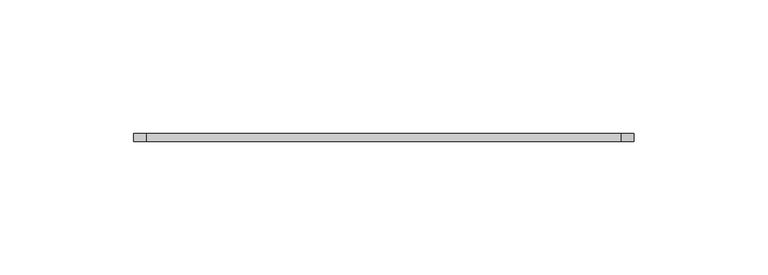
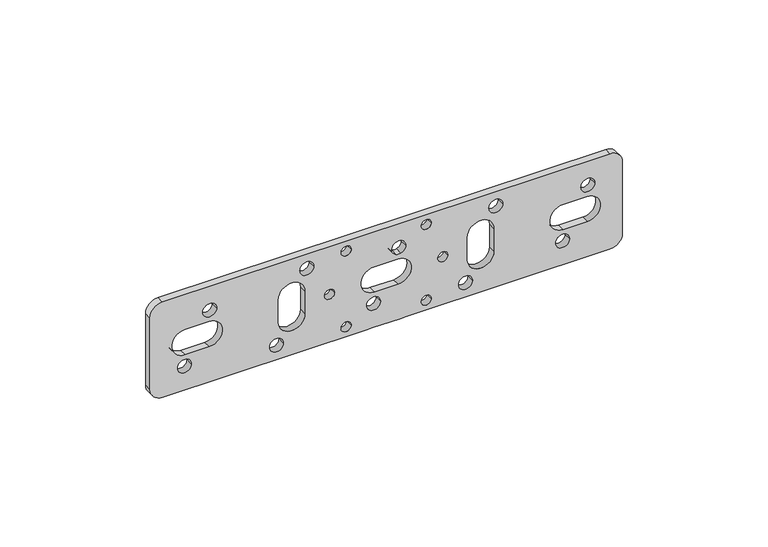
"""IFC4 building model written with IfcOpenShell, lengths in millimetres: proxy geometry, REHAU_RAUTITAN_Bracket E : REHAU_RAUTITAN_Bracket E."""

from ifc_helpers import new_model, si_unit, point, frame, frame_2d, origin, place, context, project, spatial, polyline, circle_curve, trimmed, segment, composite_curve, outline, extrude, source, transform, mapped, element, save


def mechanical_equipment_64e80083(model_context):
    return source(origin(), model_context, "Body", "SweptSolid", [
        extrude(outline(composite_curve([segment(polyline([(20.0, 88.75), (20.0, -88.75)]), True, "CONTINUOUS"), segment(trimmed(circle_curve(frame_2d((15.0, -88.75)), 5.0), [point((20.0, -88.75))], [point((15.0, -93.75))], False, "CARTESIAN"), True, "CONTINUOUS"), segment(polyline([(15.0, -93.75), (-15.0, -93.75)]), True, "CONTINUOUS"), segment(trimmed(circle_curve(frame_2d((-15.0, -88.75)), 5.0), [point((-15.0, -93.75))], [point((-20.0, -88.75))], False, "CARTESIAN"), True, "CONTINUOUS"), segment(polyline([(-20.0, -88.75), (-20.0, -7.8902278), (-20.0, -5.3119525), (-20.0, 5.3118652), (-20.0, 7.8902278), (-20.0, 88.75)]), True, "CONTINUOUS"), segment(trimmed(circle_curve(frame_2d((-15.0, 88.75)), 5.0), [point((-20.0, 88.75))], [point((-15.0, 93.75))], False, "CARTESIAN"), True, "CONTINUOUS"), segment(polyline([(-15.0, 93.75), (15.0, 93.75)]), True, "CONTINUOUS"), segment(trimmed(circle_curve(frame_2d((15.0, 88.75)), 5.0), [point((15.0, 93.75))], [point((20.0, 88.75))], False, "CARTESIAN"), True, "CONTINUOUS")], self_intersect=False), holes=[composite_curve([segment(trimmed(circle_curve(frame_2d((10.0, -70.0)), 2.75), [point((10.0, -72.75))], [point((10.0, -67.25))], True, "CARTESIAN"), True, "CONTINUOUS"), segment(trimmed(circle_curve(frame_2d((10.0, -70.0)), 2.75), [point((10.0, -67.25))], [point((10.0, -72.75))], True, "CARTESIAN"), True, "CONTINUOUS")], self_intersect=False), composite_curve([segment(polyline([(5.25, -79.75), (5.25, -70.25)]), True, "CONTINUOUS"), segment(trimmed(circle_curve(frame_2d((0.0, -70.25)), 5.25), [point((5.25, -70.25))], [point((-5.25, -70.25))], True, "CARTESIAN"), True, "CONTINUOUS"), segment(polyline([(-5.25, -70.25), (-5.25, -79.75)]), True, "CONTINUOUS"), segment(trimmed(circle_curve(frame_2d((0.0, -79.75)), 5.25), [point((-5.25, -79.75))], [point((5.25, -79.75))], True, "CARTESIAN"), True, "CONTINUOUS")], self_intersect=False), composite_curve([segment(trimmed(circle_curve(frame_2d((-10.0, -80.0)), 2.75), [point((-10.0, -82.75))], [point((-10.0, -77.25))], True, "CARTESIAN"), True, "CONTINUOUS"), segment(trimmed(circle_curve(frame_2d((-10.0, -80.0)), 2.75), [point((-10.0, -77.25))], [point((-10.0, -82.75))], True, "CARTESIAN"), True, "CONTINUOUS")], self_intersect=False), composite_curve([segment(trimmed(circle_curve(frame_2d((-14.0, -43.5)), 2.75), [point((-14.0, -46.25))], [point((-14.0, -40.75))], True, "CARTESIAN"), True, "CONTINUOUS"), segment(trimmed(circle_curve(frame_2d((-14.0, -43.5)), 2.75), [point((-14.0, -40.75))], [point((-14.0, -46.25))], True, "CARTESIAN"), True, "CONTINUOUS")], self_intersect=False), composite_curve([segment(trimmed(circle_curve(frame_2d((-4.75, -37.5)), 5.25), [point((-4.75, -32.25))], [point((-4.75, -42.75))], True, "CARTESIAN"), True, "CONTINUOUS"), segment(polyline([(-4.75, -42.75), (4.75, -42.75)]), True, "CONTINUOUS"), segment(trimmed(circle_curve(frame_2d((4.75, -37.5)), 5.25), [point((4.75, -42.75))], [point((4.75, -32.25))], True, "CARTESIAN"), True, "CONTINUOUS"), segment(polyline([(4.75, -32.25), (-4.75, -32.25)]), True, "CONTINUOUS")], self_intersect=False), composite_curve([segment(trimmed(circle_curve(frame_2d((14.0, -31.5)), 2.75), [point((14.0, -34.25))], [point((14.0, -28.75))], True, "CARTESIAN"), True, "CONTINUOUS"), segment(trimmed(circle_curve(frame_2d((14.0, -31.5)), 2.75), [point((14.0, -28.75))], [point((14.0, -34.25))], True, "CARTESIAN"), True, "CONTINUOUS")], self_intersect=False), composite_curve([segment(trimmed(circle_curve(frame_2d((15.9099026, -15.9099026)), 2.0), [point((15.9099026, -17.9099026))], [point((15.9099026, -13.9099026))], True, "CARTESIAN"), True, "CONTINUOUS"), segment(trimmed(circle_curve(frame_2d((15.9099026, -15.9099026)), 2.0), [point((15.9099026, -13.9099026))], [point((15.9099026, -17.9099026))], True, "CARTESIAN"), True, "CONTINUOUS")], self_intersect=False), composite_curve([segment(trimmed(circle_curve(frame_2d((10.0, 5.0)), 2.75), [point((7.497743, 3.8592942))], [point((10.0, 7.75))], True, "CARTESIAN"), True, "CONTINUOUS"), segment(trimmed(circle_curve(frame_2d((10.0, 5.0)), 2.75), [point((10.0, 7.75))], [point((7.3922144, 5.8728998))], True, "CARTESIAN"), True, "CONTINUOUS"), segment(trimmed(circle_curve(frame_2d((10.0, 5.0)), 2.75), [point((7.3922144, 5.8728998))], [point((7.497743, 3.8592942))], True, "CARTESIAN"), True, "CONTINUOUS")], self_intersect=False), composite_curve([segment(trimmed(circle_curve(frame_2d((15.9099026, 15.9099026)), 2.0), [point((15.9099026, 13.9099026))], [point((15.9099026, 17.9099026))], True, "CARTESIAN"), True, "CONTINUOUS"), segment(trimmed(circle_curve(frame_2d((15.9099026, 15.9099026)), 2.0), [point((15.9099026, 17.9099026))], [point((15.9099026, 13.9099026))], True, "CARTESIAN"), True, "CONTINUOUS")], self_intersect=False), composite_curve([segment(trimmed(circle_curve(frame_2d((4.75, 37.5)), 5.25), [point((4.75, 32.25))], [point((4.75, 42.75))], True, "CARTESIAN"), True, "CONTINUOUS"), segment(polyline([(4.75, 42.75), (-4.75, 42.75)]), True, "CONTINUOUS"), segment(trimmed(circle_curve(frame_2d((-4.75, 37.5)), 5.25), [point((-4.75, 42.75))], [point((-4.75, 32.25))], True, "CARTESIAN"), True, "CONTINUOUS"), segment(polyline([(-4.75, 32.25), (4.75, 32.25)]), True, "CONTINUOUS")], self_intersect=False), composite_curve([segment(trimmed(circle_curve(frame_2d((14.0, 43.5)), 2.75), [point((14.0, 40.75))], [point((14.0, 46.25))], True, "CARTESIAN"), True, "CONTINUOUS"), segment(trimmed(circle_curve(frame_2d((14.0, 43.5)), 2.75), [point((14.0, 46.25))], [point((14.0, 40.75))], True, "CARTESIAN"), True, "CONTINUOUS")], self_intersect=False), composite_curve([segment(trimmed(circle_curve(frame_2d((-14.0, 31.5)), 2.75), [point((-14.0, 28.75))], [point((-14.0, 34.25))], True, "CARTESIAN"), True, "CONTINUOUS"), segment(trimmed(circle_curve(frame_2d((-14.0, 31.5)), 2.75), [point((-14.0, 34.25))], [point((-14.0, 28.75))], True, "CARTESIAN"), True, "CONTINUOUS")], self_intersect=False), composite_curve([segment(trimmed(circle_curve(frame_2d((-15.9099026, 15.9099026)), 2.0), [point((-15.9099026, 13.9099026))], [point((-15.9099026, 17.9099026))], True, "CARTESIAN"), True, "CONTINUOUS"), segment(trimmed(circle_curve(frame_2d((-15.9099026, 15.9099026)), 2.0), [point((-15.9099026, 17.9099026))], [point((-15.9099026, 13.9099026))], True, "CARTESIAN"), True, "CONTINUOUS")], self_intersect=False), composite_curve([segment(trimmed(circle_curve(frame_2d((-15.9099026, -15.9099026)), 2.0), [point((-15.9099026, -17.9099026))], [point((-15.9099026, -13.9099026))], True, "CARTESIAN"), True, "CONTINUOUS"), segment(trimmed(circle_curve(frame_2d((-15.9099026, -15.9099026)), 2.0), [point((-15.9099026, -13.9099026))], [point((-15.9099026, -17.9099026))], True, "CARTESIAN"), True, "CONTINUOUS")], self_intersect=False), composite_curve([segment(trimmed(circle_curve(frame_2d((-10.0, 70.0)), 2.75), [point((-10.0, 67.25))], [point((-10.0, 72.75))], True, "CARTESIAN"), True, "CONTINUOUS"), segment(trimmed(circle_curve(frame_2d((-10.0, 70.0)), 2.75), [point((-10.0, 72.75))], [point((-10.0, 67.25))], True, "CARTESIAN"), True, "CONTINUOUS")], self_intersect=False), composite_curve([segment(polyline([(-5.25, 79.75), (-5.25, 70.25)]), True, "CONTINUOUS"), segment(trimmed(circle_curve(frame_2d((0.0, 70.25)), 5.25), [point((-5.25, 70.25))], [point((5.25, 70.25))], True, "CARTESIAN"), True, "CONTINUOUS"), segment(polyline([(5.25, 70.25), (5.25, 79.75)]), True, "CONTINUOUS"), segment(trimmed(circle_curve(frame_2d((0.0, 79.75)), 5.25), [point((5.25, 79.75))], [point((-5.25, 79.75))], True, "CARTESIAN"), True, "CONTINUOUS")], self_intersect=False), composite_curve([segment(trimmed(circle_curve(frame_2d((10.0, 80.0)), 2.75), [point((10.0, 77.25))], [point((10.0, 82.75))], True, "CARTESIAN"), True, "CONTINUOUS"), segment(trimmed(circle_curve(frame_2d((10.0, 80.0)), 2.75), [point((10.0, 82.75))], [point((10.0, 77.25))], True, "CARTESIAN"), True, "CONTINUOUS")], self_intersect=False), composite_curve([segment(trimmed(circle_curve(frame_2d((0.0, -4.75)), 5.25), [point((-5.25, -4.75))], [point((5.25, -4.75))], True, "CARTESIAN"), True, "CONTINUOUS"), segment(polyline([(5.25, -4.75), (5.25, 4.75)]), True, "CONTINUOUS"), segment(trimmed(circle_curve(frame_2d((0.0, 4.75)), 5.25), [point((5.25, 4.75))], [point((-5.25, 4.75))], True, "CARTESIAN"), True, "CONTINUOUS"), segment(polyline([(-5.25, 4.75), (-5.25, -4.75)]), True, "CONTINUOUS")], self_intersect=False), composite_curve([segment(trimmed(circle_curve(frame_2d((0.0, -22.5)), 2.0), [point((0.0, -24.5))], [point((0.0, -20.5))], True, "CARTESIAN"), True, "CONTINUOUS"), segment(trimmed(circle_curve(frame_2d((0.0, -22.5)), 2.0), [point((0.0, -20.5))], [point((0.0, -24.5))], True, "CARTESIAN"), True, "CONTINUOUS")], self_intersect=False), composite_curve([segment(trimmed(circle_curve(frame_2d((0.0, 22.5)), 2.0), [point((0.0, 20.5))], [point((0.0, 24.5))], True, "CARTESIAN"), True, "CONTINUOUS"), segment(trimmed(circle_curve(frame_2d((0.0, 22.5)), 2.0), [point((0.0, 24.5))], [point((0.0, 20.5))], True, "CARTESIAN"), True, "CONTINUOUS")], self_intersect=False), composite_curve([segment(trimmed(circle_curve(frame_2d((-10.0, -5.0)), 2.75), [point((-10.0, -2.25))], [point((-11.8366233, -7.0467816))], True, "CARTESIAN"), True, "CONTINUOUS"), segment(trimmed(circle_curve(frame_2d((-10.0, -5.0)), 2.75), [point((-11.8366233, -7.0467816))], [point((-9.7931998, -7.7422133))], True, "CARTESIAN"), True, "CONTINUOUS"), segment(trimmed(circle_curve(frame_2d((-10.0, -5.0)), 2.75), [point((-9.7931998, -7.7422133))], [point((-10.0, -2.25))], True, "CARTESIAN"), True, "CONTINUOUS")], self_intersect=False)]), frame((0.0, -3.0, 0.0), z_axis=(0.0, 1.0, 0.0), x_axis=(0.0, 0.0, 1.0)), (0.0, 0.0, 1.0), 3.0),
    ])


if __name__ == "__main__":
    model = new_model("IFC4")
    model_context = context("Model", 3, world=origin())
    ifc_project = project(units=[si_unit("LENGTHUNIT", "METRE", prefix="MILLI")], contexts=[model_context])
    site = spatial("IfcSite", under=ifc_project)
    building = spatial("IfcBuilding", under=site)
    placement = place(None, origin())
    mechanical_equipment_shape = mechanical_equipment_64e80083(model_context)
    element("IfcBuildingElementProxy", 1, Name="REHAU_RAUTITAN_Bracket E : REHAU_RAUTITAN_Bracket E", ObjectType="REHAU_RAUTITAN_Bracket E : REHAU_RAUTITAN_Bracket E", at=placement, inside=building, context=model_context, shape_type="MappedRepresentation", body=[
        mapped(mechanical_equipment_shape, transform((0.0, 0.0, 0.0), x_axis=(1.0, 0.0, 0.0), y_axis=(0.0, 1.0, 0.0), z_axis=(0.0, 0.0, 1.0))),
    ])
    save(model, "model.ifc")
